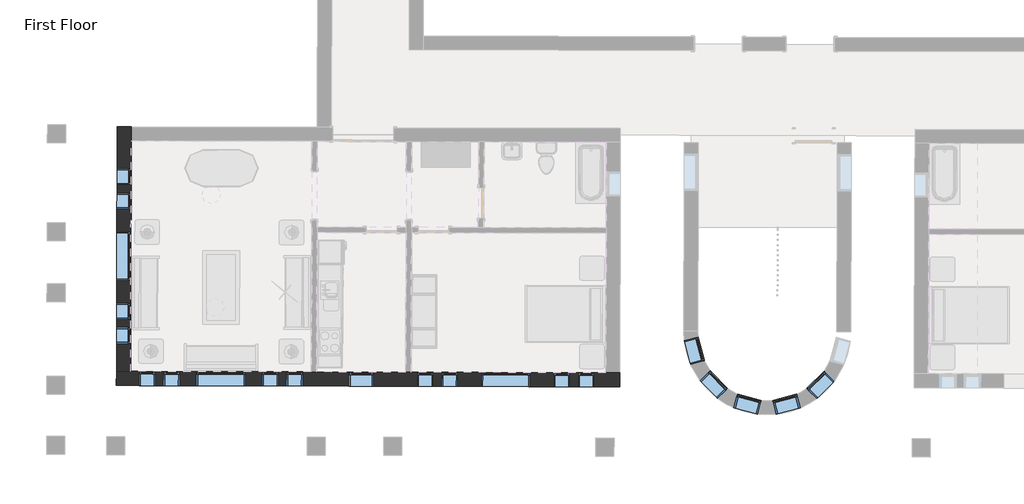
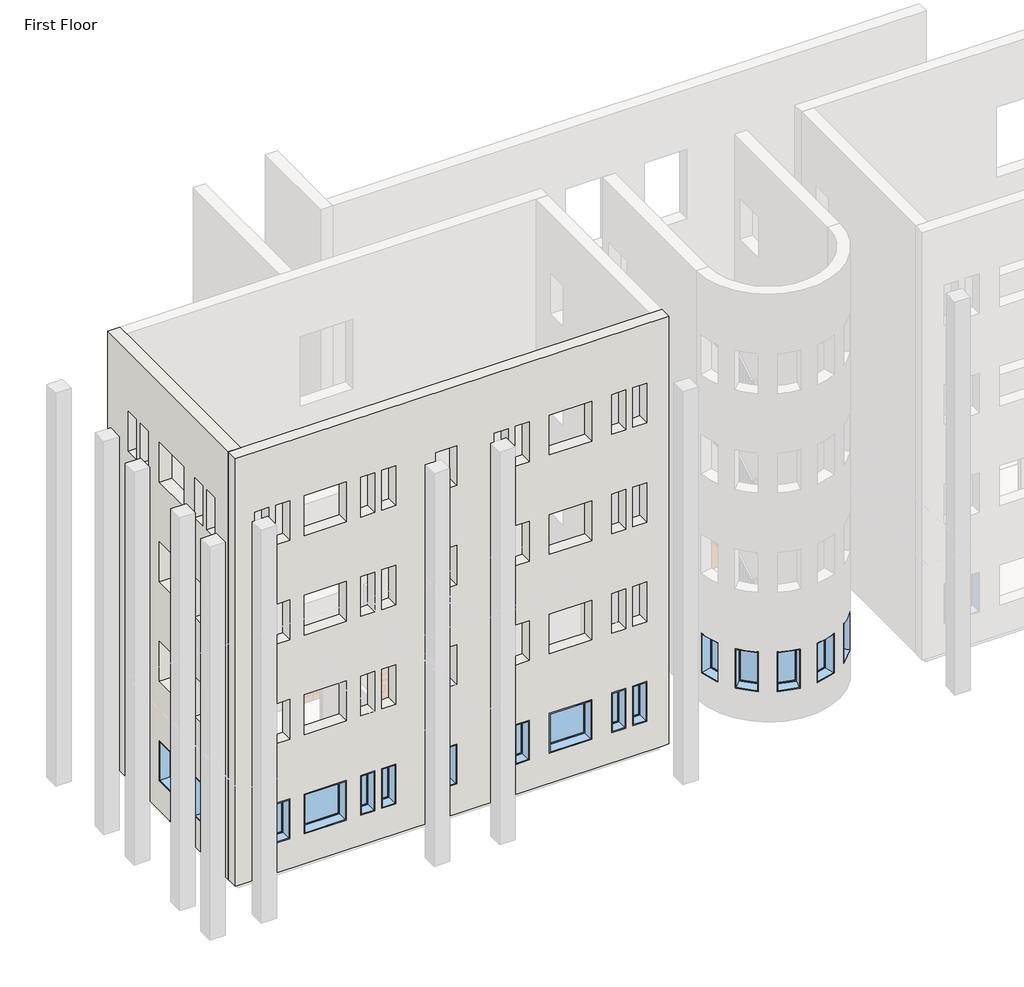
# One storey, part 1 of 22: 21 windows, 2 walls.
"""IFC4 building model written with IfcOpenShell, lengths in millimetres."""

from ifc_helpers import new_model, si_unit, origin, place, context, project, spatial, faceted_brep, transform, mapped, element, save
from components import m_fixed_0406_x_1220mm_57fee329, m_fixed_0406_x_1220mm_85c28f40, m_fixed_0610_x_1220mm_2c28ef1d, m_fixed_0610_x_1220mm_1ea27827, m_fixed_1220_x_1220mm_e08ff7af

model = new_model("IFC4")

# Units and contexts
model_context = context("Model", 3, world=origin())
ifc_project = project(units=[si_unit("LENGTHUNIT", "METRE", prefix="MILLI")], contexts=[model_context])

# Site, building, storey
site = spatial("IfcSite", under=ifc_project)
building = spatial("IfcBuilding", under=site)
storey = spatial("IfcBuildingStorey", under=building, Name="First Floor", Elevation=0.0)

# Walls
placement = place(None, origin())
element("IfcWall", 1, ObjectType="Exterior - Brick on Mtl. Stud", at=placement, inside=storey, context=model_context, shape_type="Brep", body=[
    faceted_brep([(-22692.7768917, -41765.4624379, 0.0), (-22877.7761166, -41764.9268899, 0.0), (-23042.7754252, -41764.4492391, 0.0), (-27891.2551095, -41750.4135399, 0.0), (-28026.7545418, -41750.0212871, 0.0), (-30244.9952471, -41743.5997775, 0.0), (-30380.4946793, -41743.2075247, 0.0), (-34884.7258061, -41730.168379, 0.0), (-35049.7251147, -41729.6907281, 0.0), (-35234.7243395, -41729.1551801, 0.0), (-35234.7243395, -41729.1551801, 13107.0), (-34884.7258061, -41730.168379, 13107.0), (-23042.7754252, -41764.4492391, 13107.0), (-22692.7768917, -41765.4624379, 13107.0), (-29440.8986163, -41745.9275295, 915.0), (-28830.9011723, -41747.6933904, 915.0), (-28830.9011723, -41747.6933904, 2135.0), (-29440.8986163, -41745.9275295, 2135.0), (-26144.7624275, -41755.4694022, 915.0), (-24924.7675394, -41759.001124, 915.0), (-24924.7675394, -41759.001124, 2135.0), (-26144.7624275, -41755.4694022, 2135.0), (-33242.6076867, -41734.922091, 915.0), (-32022.6127987, -41738.4538128, 915.0), (-32022.6127987, -41738.4538128, 2135.0), (-33242.6076867, -41734.922091, 2135.0), (-23730.7725424, -41762.4575796, 915.0), (-23324.7742436, -41763.6328902, 915.0), (-23324.7742436, -41763.6328902, 2135.0), (-23730.7725424, -41762.4575796, 2135.0), (-24340.7699865, -41760.6917187, 915.0), (-23934.7716876, -41761.8670294, 915.0), (-23934.7716876, -41761.8670294, 2135.0), (-24340.7699865, -41760.6917187, 2135.0), (-26728.7599805, -41753.7788075, 915.0), (-26728.7599805, -41753.7788075, 2135.0), (-27134.7582793, -41752.6034968, 2135.0), (-27134.7582793, -41752.6034968, 915.0), (-27338.7574246, -41752.0129466, 915.0), (-27338.7574246, -41752.0129466, 2135.0), (-27744.7557234, -41750.8376359, 2135.0), (-27744.7557234, -41750.8376359, 915.0), (-31607.739537, -41739.6548153, 915.0), (-31201.7412382, -41740.830126, 915.0), (-31201.7412382, -41740.830126, 2135.0), (-31607.739537, -41739.6548153, 2135.0), (-30997.742093, -41741.4206762, 915.0), (-30591.7437942, -41742.5959869, 915.0), (-30591.7437942, -41742.5959869, 2135.0), (-30997.742093, -41741.4206762, 2135.0), (-33657.4809484, -41733.7210885, 915.0), (-33657.4809484, -41733.7210885, 2135.0), (-34063.4792472, -41732.5457778, 2135.0), (-34063.4792472, -41732.5457778, 915.0), (-34267.4783924, -41731.9552276, 915.0), (-34267.4783924, -41731.9552276, 2135.0), (-34673.4766912, -41730.7799169, 2135.0), (-34673.4766912, -41730.7799169, 915.0), (-33657.4809484, -41733.7210885, 10059.0), (-33657.4809484, -41733.7210885, 11279.0), (-34063.4792472, -41732.5457778, 11279.0), (-34063.4792472, -41732.5457778, 10059.0), (-34267.4783924, -41731.9552276, 10059.0), (-34267.4783924, -41731.9552276, 11279.0), (-34673.4766912, -41730.7799169, 11279.0), (-34673.4766912, -41730.7799169, 10059.0), (-31607.739537, -41739.6548153, 10059.0), (-31201.7412382, -41740.830126, 10059.0), (-31201.7412382, -41740.830126, 11279.0), (-31607.739537, -41739.6548153, 11279.0), (-30997.742093, -41741.4206762, 10059.0), (-30591.7437942, -41742.5959869, 10059.0), (-30591.7437942, -41742.5959869, 11279.0), (-30997.742093, -41741.4206762, 11279.0), (-26728.7599805, -41753.7788075, 10059.0), (-26728.7599805, -41753.7788075, 11279.0), (-27134.7582793, -41752.6034968, 11279.0), (-27134.7582793, -41752.6034968, 10059.0), (-27338.7574246, -41752.0129466, 10059.0), (-27338.7574246, -41752.0129466, 11279.0), (-27744.7557234, -41750.8376359, 11279.0), (-27744.7557234, -41750.8376359, 10059.0), (-24340.7699865, -41760.6917187, 10059.0), (-23934.7716876, -41761.8670294, 10059.0), (-23934.7716876, -41761.8670294, 11279.0), (-24340.7699865, -41760.6917187, 11279.0), (-23730.7725424, -41762.4575796, 10059.0), (-23324.7742436, -41763.6328902, 10059.0), (-23324.7742436, -41763.6328902, 11279.0), (-23730.7725424, -41762.4575796, 11279.0), (-33242.6076867, -41734.922091, 10059.0), (-32022.6127987, -41738.4538128, 10059.0), (-32022.6127987, -41738.4538128, 11279.0), (-33242.6076867, -41734.922091, 11279.0), (-26144.7624275, -41755.4694022, 10059.0), (-24924.7675394, -41759.001124, 10059.0), (-24924.7675394, -41759.001124, 11279.0), (-26144.7624275, -41755.4694022, 11279.0), (-29440.8986163, -41745.9275295, 10059.0), (-28830.9011723, -41747.6933904, 10059.0), (-28830.9011723, -41747.6933904, 11279.0), (-29440.8986163, -41745.9275295, 11279.0), (-33657.4809484, -41733.7210885, 3963.0), (-33657.4809484, -41733.7210885, 5183.0), (-34063.4792472, -41732.5457778, 5183.0), (-34063.4792472, -41732.5457778, 3963.0), (-34267.4783924, -41731.9552276, 3963.0), (-34267.4783924, -41731.9552276, 5183.0), (-34673.4766912, -41730.7799169, 5183.0), (-34673.4766912, -41730.7799169, 3963.0), (-31607.739537, -41739.6548153, 3963.0), (-31201.7412382, -41740.830126, 3963.0), (-31201.7412382, -41740.830126, 5183.0), (-31607.739537, -41739.6548153, 5183.0), (-30997.742093, -41741.4206762, 3963.0), (-30591.7437942, -41742.5959869, 3963.0), (-30591.7437942, -41742.5959869, 5183.0), (-30997.742093, -41741.4206762, 5183.0), (-26728.7599805, -41753.7788075, 3963.0), (-26728.7599805, -41753.7788075, 5183.0), (-27134.7582793, -41752.6034968, 5183.0), (-27134.7582793, -41752.6034968, 3963.0), (-27338.7574246, -41752.0129466, 3963.0), (-27338.7574246, -41752.0129466, 5183.0), (-27744.7557234, -41750.8376359, 5183.0), (-27744.7557234, -41750.8376359, 3963.0), (-24340.7699865, -41760.6917187, 3963.0), (-23934.7716876, -41761.8670294, 3963.0), (-23934.7716876, -41761.8670294, 5183.0), (-24340.7699865, -41760.6917187, 5183.0), (-23730.7725424, -41762.4575796, 3963.0), (-23324.7742436, -41763.6328902, 3963.0), (-23324.7742436, -41763.6328902, 5183.0), (-23730.7725424, -41762.4575796, 5183.0), (-33242.6076867, -41734.922091, 3963.0), (-32022.6127987, -41738.4538128, 3963.0), (-32022.6127987, -41738.4538128, 5183.0), (-33242.6076867, -41734.922091, 5183.0), (-26144.7624275, -41755.4694022, 3963.0), (-24924.7675394, -41759.001124, 3963.0), (-24924.7675394, -41759.001124, 5183.0), (-26144.7624275, -41755.4694022, 5183.0), (-29440.8986163, -41745.9275295, 3963.0), (-28830.9011723, -41747.6933904, 3963.0), (-28830.9011723, -41747.6933904, 5183.0), (-29440.8986163, -41745.9275295, 5183.0), (-33657.4809484, -41733.7210885, 7011.0), (-33657.4809484, -41733.7210885, 8231.0), (-34063.4792472, -41732.5457778, 8231.0), (-34063.4792472, -41732.5457778, 7011.0), (-34267.4783924, -41731.9552276, 7011.0), (-34267.4783924, -41731.9552276, 8231.0), (-34673.4766912, -41730.7799169, 8231.0), (-34673.4766912, -41730.7799169, 7011.0), (-31607.739537, -41739.6548153, 7011.0), (-31201.7412382, -41740.830126, 7011.0), (-31201.7412382, -41740.830126, 8231.0), (-31607.739537, -41739.6548153, 8231.0), (-30997.742093, -41741.4206762, 7011.0), (-30591.7437942, -41742.5959869, 7011.0), (-30591.7437942, -41742.5959869, 8231.0), (-30997.742093, -41741.4206762, 8231.0), (-26728.7599805, -41753.7788075, 7011.0), (-26728.7599805, -41753.7788075, 8231.0), (-27134.7582793, -41752.6034968, 8231.0), (-27134.7582793, -41752.6034968, 7011.0), (-27338.7574246, -41752.0129466, 7011.0), (-27338.7574246, -41752.0129466, 8231.0), (-27744.7557234, -41750.8376359, 8231.0), (-27744.7557234, -41750.8376359, 7011.0), (-24340.7699865, -41760.6917187, 7011.0), (-23934.7716876, -41761.8670294, 7011.0), (-23934.7716876, -41761.8670294, 8231.0), (-24340.7699865, -41760.6917187, 8231.0), (-23730.7725424, -41762.4575796, 7011.0), (-23324.7742436, -41763.6328902, 7011.0), (-23324.7742436, -41763.6328902, 8231.0), (-23730.7725424, -41762.4575796, 8231.0), (-33242.6076867, -41734.922091, 7011.0), (-32022.6127987, -41738.4538128, 7011.0), (-32022.6127987, -41738.4538128, 8231.0), (-33242.6076867, -41734.922091, 8231.0), (-26144.7624275, -41755.4694022, 7011.0), (-24924.7675394, -41759.001124, 7011.0), (-24924.7675394, -41759.001124, 8231.0), (-26144.7624275, -41755.4694022, 8231.0), (-29440.8986163, -41745.9275295, 7011.0), (-28830.9011723, -41747.6933904, 7011.0), (-28830.9011723, -41747.6933904, 8231.0), (-29440.8986163, -41745.9275295, 8231.0), (-22693.7900906, -42115.4609714, 0.0), (-22693.7900906, -42115.4609714, 13107.0), (-35235.7375384, -42079.1537136, 13107.0), (-35235.7375384, -42079.1537136, 0.0), (-35050.7383136, -42079.6892616, 0.0), (-22878.7893155, -42114.9254234, 0.0), (-29441.9118152, -42095.9260629, 915.0), (-29441.9118152, -42095.9260629, 2135.0), (-28831.9143712, -42097.6919238, 2135.0), (-28831.9143712, -42097.6919238, 915.0), (-26145.7756264, -42105.4679357, 915.0), (-26145.7756264, -42105.4679357, 2135.0), (-24925.7807383, -42108.9996575, 2135.0), (-24925.7807383, -42108.9996575, 915.0), (-33243.6208856, -42084.9206245, 915.0), (-33243.6208856, -42084.9206245, 2135.0), (-32023.6259975, -42088.4523462, 2135.0), (-32023.6259975, -42088.4523462, 915.0), (-23731.7857413, -42112.456113, 915.0), (-23731.7857413, -42112.456113, 2135.0), (-23325.7874425, -42113.6314237, 2135.0), (-23325.7874425, -42113.6314237, 915.0), (-24341.7831853, -42110.6902521, 915.0), (-24341.7831853, -42110.6902521, 2135.0), (-23935.7848865, -42111.8655628, 2135.0), (-23935.7848865, -42111.8655628, 915.0), (-26729.7731794, -42103.777341, 915.0), (-27135.7714782, -42102.6020303, 915.0), (-27135.7714782, -42102.6020303, 2135.0), (-26729.7731794, -42103.777341, 2135.0), (-27339.7706234, -42102.0114801, 915.0), (-27745.7689222, -42100.8361694, 915.0), (-27745.7689222, -42100.8361694, 2135.0), (-27339.7706234, -42102.0114801, 2135.0), (-31608.7527359, -42089.6533487, 915.0), (-31608.7527359, -42089.6533487, 2135.0), (-31202.7544371, -42090.8286594, 2135.0), (-31202.7544371, -42090.8286594, 915.0), (-30998.7552919, -42091.4192096, 915.0), (-30998.7552919, -42091.4192096, 2135.0), (-30592.756993, -42092.5945203, 2135.0), (-30592.756993, -42092.5945203, 915.0), (-33658.4941472, -42083.7196219, 915.0), (-34064.4924461, -42082.5443112, 915.0), (-34064.4924461, -42082.5443112, 2135.0), (-33658.4941472, -42083.7196219, 2135.0), (-34268.4915913, -42081.953761, 915.0), (-34674.4898901, -42080.7784504, 915.0), (-34674.4898901, -42080.7784504, 2135.0), (-34268.4915913, -42081.953761, 2135.0), (-33658.4941472, -42083.7196219, 10059.0), (-34064.4924461, -42082.5443112, 10059.0), (-34064.4924461, -42082.5443112, 11279.0), (-33658.4941472, -42083.7196219, 11279.0), (-34268.4915913, -42081.953761, 10059.0), (-34674.4898901, -42080.7784504, 10059.0), (-34674.4898901, -42080.7784504, 11279.0), (-34268.4915913, -42081.953761, 11279.0), (-31608.7527359, -42089.6533487, 10059.0), (-31608.7527359, -42089.6533487, 11279.0), (-31202.7544371, -42090.8286594, 11279.0), (-31202.7544371, -42090.8286594, 10059.0), (-30998.7552919, -42091.4192096, 10059.0), (-30998.7552919, -42091.4192096, 11279.0), (-30592.756993, -42092.5945203, 11279.0), (-30592.756993, -42092.5945203, 10059.0), (-26729.7731794, -42103.777341, 10059.0), (-27135.7714782, -42102.6020303, 10059.0), (-27135.7714782, -42102.6020303, 11279.0), (-26729.7731794, -42103.777341, 11279.0), (-27339.7706234, -42102.0114801, 10059.0), (-27745.7689222, -42100.8361694, 10059.0), (-27745.7689222, -42100.8361694, 11279.0), (-27339.7706234, -42102.0114801, 11279.0), (-24341.7831853, -42110.6902521, 10059.0), (-24341.7831853, -42110.6902521, 11279.0), (-23935.7848865, -42111.8655628, 11279.0), (-23935.7848865, -42111.8655628, 10059.0), (-23731.7857413, -42112.456113, 10059.0), (-23731.7857413, -42112.456113, 11279.0), (-23325.7874425, -42113.6314237, 11279.0), (-23325.7874425, -42113.6314237, 10059.0), (-33243.6208856, -42084.9206245, 10059.0), (-33243.6208856, -42084.9206245, 11279.0), (-32023.6259975, -42088.4523462, 11279.0), (-32023.6259975, -42088.4523462, 10059.0), (-26145.7756264, -42105.4679357, 10059.0), (-26145.7756264, -42105.4679357, 11279.0), (-24925.7807383, -42108.9996575, 11279.0), (-24925.7807383, -42108.9996575, 10059.0), (-29441.9118152, -42095.9260629, 10059.0), (-29441.9118152, -42095.9260629, 11279.0), (-28831.9143712, -42097.6919238, 11279.0), (-28831.9143712, -42097.6919238, 10059.0), (-33658.4941472, -42083.7196219, 3963.0), (-34064.4924461, -42082.5443112, 3963.0), (-34064.4924461, -42082.5443112, 5183.0), (-33658.4941472, -42083.7196219, 5183.0), (-34268.4915913, -42081.953761, 3963.0), (-34674.4898901, -42080.7784504, 3963.0), (-34674.4898901, -42080.7784504, 5183.0), (-34268.4915913, -42081.953761, 5183.0), (-31608.7527359, -42089.6533487, 3963.0), (-31608.7527359, -42089.6533487, 5183.0), (-31202.7544371, -42090.8286594, 5183.0), (-31202.7544371, -42090.8286594, 3963.0), (-30998.7552919, -42091.4192096, 3963.0), (-30998.7552919, -42091.4192096, 5183.0), (-30592.756993, -42092.5945203, 5183.0), (-30592.756993, -42092.5945203, 3963.0), (-26729.7731794, -42103.777341, 3963.0), (-27135.7714782, -42102.6020303, 3963.0), (-27135.7714782, -42102.6020303, 5183.0), (-26729.7731794, -42103.777341, 5183.0), (-27339.7706234, -42102.0114801, 3963.0), (-27745.7689222, -42100.8361694, 3963.0), (-27745.7689222, -42100.8361694, 5183.0), (-27339.7706234, -42102.0114801, 5183.0), (-24341.7831853, -42110.6902521, 3963.0), (-24341.7831853, -42110.6902521, 5183.0), (-23935.7848865, -42111.8655628, 5183.0), (-23935.7848865, -42111.8655628, 3963.0), (-23731.7857413, -42112.456113, 3963.0), (-23731.7857413, -42112.456113, 5183.0), (-23325.7874425, -42113.6314237, 5183.0), (-23325.7874425, -42113.6314237, 3963.0), (-33243.6208856, -42084.9206245, 3963.0), (-33243.6208856, -42084.9206245, 5183.0), (-32023.6259975, -42088.4523462, 5183.0), (-32023.6259975, -42088.4523462, 3963.0), (-26145.7756264, -42105.4679357, 3963.0), (-26145.7756264, -42105.4679357, 5183.0), (-24925.7807383, -42108.9996575, 5183.0), (-24925.7807383, -42108.9996575, 3963.0), (-29441.9118152, -42095.9260629, 3963.0), (-29441.9118152, -42095.9260629, 5183.0), (-28831.9143712, -42097.6919238, 5183.0), (-28831.9143712, -42097.6919238, 3963.0), (-33658.4941472, -42083.7196219, 7011.0), (-34064.4924461, -42082.5443112, 7011.0), (-34064.4924461, -42082.5443112, 8231.0), (-33658.4941472, -42083.7196219, 8231.0), (-34268.4915913, -42081.953761, 7011.0), (-34674.4898901, -42080.7784504, 7011.0), (-34674.4898901, -42080.7784504, 8231.0), (-34268.4915913, -42081.953761, 8231.0), (-31608.7527359, -42089.6533487, 7011.0), (-31608.7527359, -42089.6533487, 8231.0), (-31202.7544371, -42090.8286594, 8231.0), (-31202.7544371, -42090.8286594, 7011.0), (-30998.7552919, -42091.4192096, 7011.0), (-30998.7552919, -42091.4192096, 8231.0), (-30592.756993, -42092.5945203, 8231.0), (-30592.756993, -42092.5945203, 7011.0), (-26729.7731794, -42103.777341, 7011.0), (-27135.7714782, -42102.6020303, 7011.0), (-27135.7714782, -42102.6020303, 8231.0), (-26729.7731794, -42103.777341, 8231.0), (-27339.7706234, -42102.0114801, 7011.0), (-27745.7689222, -42100.8361694, 7011.0), (-27745.7689222, -42100.8361694, 8231.0), (-27339.7706234, -42102.0114801, 8231.0), (-24341.7831853, -42110.6902521, 7011.0), (-24341.7831853, -42110.6902521, 8231.0), (-23935.7848865, -42111.8655628, 8231.0), (-23935.7848865, -42111.8655628, 7011.0), (-23731.7857413, -42112.456113, 7011.0), (-23731.7857413, -42112.456113, 8231.0), (-23325.7874425, -42113.6314237, 8231.0), (-23325.7874425, -42113.6314237, 7011.0), (-33243.6208856, -42084.9206245, 7011.0), (-33243.6208856, -42084.9206245, 8231.0), (-32023.6259975, -42088.4523462, 8231.0), (-32023.6259975, -42088.4523462, 7011.0), (-26145.7756264, -42105.4679357, 7011.0), (-26145.7756264, -42105.4679357, 8231.0), (-24925.7807383, -42108.9996575, 8231.0), (-24925.7807383, -42108.9996575, 7011.0), (-29441.9118152, -42095.9260629, 7011.0), (-29441.9118152, -42095.9260629, 8231.0), (-28831.9143712, -42097.6919238, 8231.0), (-28831.9143712, -42097.6919238, 7011.0), (-35235.2019904, -41894.1544888, 0.0), (-22693.2545426, -41930.4617466, 0.0), (-22878.2537675, -41929.9261986, 0.0), (-35050.2027656, -41894.6900367, 0.0)], [[[0, 1, 2, 3, 4, 5, 6, 7, 8, 9, 10, 11, 12, 13], [14, 15, 16, 17], [18, 19, 20, 21], [22, 23, 24, 25], [26, 27, 28, 29], [30, 31, 32, 33], [34, 35, 36, 37], [38, 39, 40, 41], [42, 43, 44, 45], [46, 47, 48, 49], [50, 51, 52, 53], [54, 55, 56, 57], [58, 59, 60, 61], [62, 63, 64, 65], [66, 67, 68, 69], [70, 71, 72, 73], [74, 75, 76, 77], [78, 79, 80, 81], [82, 83, 84, 85], [86, 87, 88, 89], [90, 91, 92, 93], [94, 95, 96, 97], [98, 99, 100, 101], [102, 103, 104, 105], [106, 107, 108, 109], [110, 111, 112, 113], [114, 115, 116, 117], [118, 119, 120, 121], [122, 123, 124, 125], [126, 127, 128, 129], [130, 131, 132, 133], [134, 135, 136, 137], [138, 139, 140, 141], [142, 143, 144, 145], [146, 147, 148, 149], [150, 151, 152, 153], [154, 155, 156, 157], [158, 159, 160, 161], [162, 163, 164, 165], [166, 167, 168, 169], [170, 171, 172, 173], [174, 175, 176, 177], [178, 179, 180, 181], [182, 183, 184, 185], [186, 187, 188, 189]], [[190, 191, 192, 193, 194, 195], [196, 197, 198, 199], [200, 201, 202, 203], [204, 205, 206, 207], [208, 209, 210, 211], [212, 213, 214, 215], [216, 217, 218, 219], [220, 221, 222, 223], [224, 225, 226, 227], [228, 229, 230, 231], [232, 233, 234, 235], [236, 237, 238, 239], [240, 241, 242, 243], [244, 245, 246, 247], [248, 249, 250, 251], [252, 253, 254, 255], [256, 257, 258, 259], [260, 261, 262, 263], [264, 265, 266, 267], [268, 269, 270, 271], [272, 273, 274, 275], [276, 277, 278, 279], [280, 281, 282, 283], [284, 285, 286, 287], [288, 289, 290, 291], [292, 293, 294, 295], [296, 297, 298, 299], [300, 301, 302, 303], [304, 305, 306, 307], [308, 309, 310, 311], [312, 313, 314, 315], [316, 317, 318, 319], [320, 321, 322, 323], [324, 325, 326, 327], [328, 329, 330, 331], [332, 333, 334, 335], [336, 337, 338, 339], [340, 341, 342, 343], [344, 345, 346, 347], [348, 349, 350, 351], [352, 353, 354, 355], [356, 357, 358, 359], [360, 361, 362, 363], [364, 365, 366, 367], [368, 369, 370, 371]], [[13, 12, 11, 10, 192, 191]], [[10, 9, 372, 193, 192]], [[0, 13, 191, 190, 373]], [[197, 196, 14, 17]], [[198, 197, 17, 16]], [[199, 198, 16, 15]], [[196, 199, 15, 14]], [[201, 200, 18, 21]], [[202, 201, 21, 20]], [[203, 202, 20, 19]], [[200, 203, 19, 18]], [[205, 204, 22, 25]], [[206, 205, 25, 24]], [[207, 206, 24, 23]], [[204, 207, 23, 22]], [[209, 208, 26, 29]], [[210, 209, 29, 28]], [[211, 210, 28, 27]], [[208, 211, 27, 26]], [[213, 212, 30, 33]], [[214, 213, 33, 32]], [[215, 214, 32, 31]], [[212, 215, 31, 30]], [[35, 34, 216, 219]], [[36, 35, 219, 218]], [[37, 36, 218, 217]], [[34, 37, 217, 216]], [[39, 38, 220, 223]], [[40, 39, 223, 222]], [[41, 40, 222, 221]], [[38, 41, 221, 220]], [[225, 224, 42, 45]], [[226, 225, 45, 44]], [[227, 226, 44, 43]], [[224, 227, 43, 42]], [[229, 228, 46, 49]], [[230, 229, 49, 48]], [[231, 230, 48, 47]], [[228, 231, 47, 46]], [[51, 50, 232, 235]], [[52, 51, 235, 234]], [[53, 52, 234, 233]], [[50, 53, 233, 232]], [[55, 54, 236, 239]], [[56, 55, 239, 238]], [[57, 56, 238, 237]], [[54, 57, 237, 236]], [[1, 0, 373, 374]], [[373, 190, 195, 374]], [[9, 8, 375, 372]], [[195, 194, 375, 374]], [[194, 193, 372, 375]], [[8, 7, 6, 5, 4, 3, 2, 1, 374, 375]], [[59, 58, 240, 243]], [[60, 59, 243, 242]], [[61, 60, 242, 241]], [[58, 61, 241, 240]], [[63, 62, 244, 247]], [[64, 63, 247, 246]], [[65, 64, 246, 245]], [[62, 65, 245, 244]], [[249, 248, 66, 69]], [[250, 249, 69, 68]], [[251, 250, 68, 67]], [[248, 251, 67, 66]], [[253, 252, 70, 73]], [[254, 253, 73, 72]], [[255, 254, 72, 71]], [[252, 255, 71, 70]], [[75, 74, 256, 259]], [[76, 75, 259, 258]], [[77, 76, 258, 257]], [[74, 77, 257, 256]], [[79, 78, 260, 263]], [[80, 79, 263, 262]], [[81, 80, 262, 261]], [[78, 81, 261, 260]], [[265, 264, 82, 85]], [[266, 265, 85, 84]], [[267, 266, 84, 83]], [[264, 267, 83, 82]], [[269, 268, 86, 89]], [[270, 269, 89, 88]], [[271, 270, 88, 87]], [[268, 271, 87, 86]], [[273, 272, 90, 93]], [[274, 273, 93, 92]], [[275, 274, 92, 91]], [[272, 275, 91, 90]], [[277, 276, 94, 97]], [[278, 277, 97, 96]], [[279, 278, 96, 95]], [[276, 279, 95, 94]], [[281, 280, 98, 101]], [[282, 281, 101, 100]], [[283, 282, 100, 99]], [[280, 283, 99, 98]], [[103, 102, 284, 287]], [[104, 103, 287, 286]], [[105, 104, 286, 285]], [[102, 105, 285, 284]], [[107, 106, 288, 291]], [[108, 107, 291, 290]], [[109, 108, 290, 289]], [[106, 109, 289, 288]], [[293, 292, 110, 113]], [[294, 293, 113, 112]], [[295, 294, 112, 111]], [[292, 295, 111, 110]], [[297, 296, 114, 117]], [[298, 297, 117, 116]], [[299, 298, 116, 115]], [[296, 299, 115, 114]], [[119, 118, 300, 303]], [[120, 119, 303, 302]], [[121, 120, 302, 301]], [[118, 121, 301, 300]], [[123, 122, 304, 307]], [[124, 123, 307, 306]], [[125, 124, 306, 305]], [[122, 125, 305, 304]], [[309, 308, 126, 129]], [[310, 309, 129, 128]], [[311, 310, 128, 127]], [[308, 311, 127, 126]], [[313, 312, 130, 133]], [[314, 313, 133, 132]], [[315, 314, 132, 131]], [[312, 315, 131, 130]], [[317, 316, 134, 137]], [[318, 317, 137, 136]], [[319, 318, 136, 135]], [[316, 319, 135, 134]], [[321, 320, 138, 141]], [[322, 321, 141, 140]], [[323, 322, 140, 139]], [[320, 323, 139, 138]], [[325, 324, 142, 145]], [[326, 325, 145, 144]], [[327, 326, 144, 143]], [[324, 327, 143, 142]], [[147, 146, 328, 331]], [[148, 147, 331, 330]], [[149, 148, 330, 329]], [[146, 149, 329, 328]], [[151, 150, 332, 335]], [[152, 151, 335, 334]], [[153, 152, 334, 333]], [[150, 153, 333, 332]], [[337, 336, 154, 157]], [[338, 337, 157, 156]], [[339, 338, 156, 155]], [[336, 339, 155, 154]], [[341, 340, 158, 161]], [[342, 341, 161, 160]], [[343, 342, 160, 159]], [[340, 343, 159, 158]], [[163, 162, 344, 347]], [[164, 163, 347, 346]], [[165, 164, 346, 345]], [[162, 165, 345, 344]], [[167, 166, 348, 351]], [[168, 167, 351, 350]], [[169, 168, 350, 349]], [[166, 169, 349, 348]], [[353, 352, 170, 173]], [[354, 353, 173, 172]], [[355, 354, 172, 171]], [[352, 355, 171, 170]], [[357, 356, 174, 177]], [[358, 357, 177, 176]], [[359, 358, 176, 175]], [[356, 359, 175, 174]], [[361, 360, 178, 181]], [[362, 361, 181, 180]], [[363, 362, 180, 179]], [[360, 363, 179, 178]], [[365, 364, 182, 185]], [[366, 365, 185, 184]], [[367, 366, 184, 183]], [[364, 367, 183, 182]], [[369, 368, 186, 189]], [[370, 369, 189, 188]], [[371, 370, 188, 187]], [[368, 371, 187, 186]]]),
])
element("IfcWall", 2, ObjectType="Exterior - Brick on Mtl. Stud", at=placement, inside=storey, context=model_context, shape_type="Brep", body=[
    faceted_brep([(-34884.7258061, -41730.168379, 0.0), (-34868.0919755, -35984.1924553, 0.0), (-34867.6143246, -35819.1931467, 0.0), (-34867.0787766, -35634.1939218, 0.0), (-34867.0787766, -35634.1939218, 13107.0), (-34868.0919755, -35984.1924553, 13107.0), (-34884.7258061, -41730.168379, 13107.0), (-34874.6430299, -38247.1829731, 915.0), (-34878.1747517, -39467.1778612, 915.0), (-34878.1747517, -39467.1778612, 2135.0), (-34874.6430299, -38247.1829731, 2135.0), (-34879.7900801, -40025.1755231, 915.0), (-34880.9653908, -40431.1738219, 915.0), (-34880.9653908, -40431.1738219, 2135.0), (-34879.7900801, -40025.1755231, 2135.0), (-34881.555941, -40635.1729672, 915.0), (-34882.7312517, -41041.171266, 915.0), (-34882.7312517, -41041.171266, 2135.0), (-34881.555941, -40635.1729672, 2135.0), (-34873.0277014, -37689.1853112, 915.0), (-34873.0277014, -37689.1853112, 2135.0), (-34871.8523907, -37283.1870124, 2135.0), (-34871.8523907, -37283.1870124, 915.0), (-34871.2618405, -37079.1878671, 915.0), (-34871.2618405, -37079.1878671, 2135.0), (-34870.0865298, -36673.1895683, 2135.0), (-34870.0865298, -36673.1895683, 915.0), (-34873.0277014, -37689.1853112, 10059.0), (-34873.0277014, -37689.1853112, 11279.0), (-34871.8523907, -37283.1870124, 11279.0), (-34871.8523907, -37283.1870124, 10059.0), (-34871.2618405, -37079.1878671, 10059.0), (-34871.2618405, -37079.1878671, 11279.0), (-34870.0865298, -36673.1895683, 11279.0), (-34870.0865298, -36673.1895683, 10059.0), (-34879.7900801, -40025.1755231, 10059.0), (-34880.9653908, -40431.1738219, 10059.0), (-34880.9653908, -40431.1738219, 11279.0), (-34879.7900801, -40025.1755231, 11279.0), (-34881.555941, -40635.1729672, 10059.0), (-34882.7312517, -41041.171266, 10059.0), (-34882.7312517, -41041.171266, 11279.0), (-34881.555941, -40635.1729672, 11279.0), (-34874.6430299, -38247.1829731, 10059.0), (-34878.1747517, -39467.1778612, 10059.0), (-34878.1747517, -39467.1778612, 11279.0), (-34874.6430299, -38247.1829731, 11279.0), (-34873.0277014, -37689.1853112, 3963.0), (-34873.0277014, -37689.1853112, 5183.0), (-34871.8523907, -37283.1870124, 5183.0), (-34871.8523907, -37283.1870124, 3963.0), (-34871.2618405, -37079.1878671, 3963.0), (-34871.2618405, -37079.1878671, 5183.0), (-34870.0865298, -36673.1895683, 5183.0), (-34870.0865298, -36673.1895683, 3963.0), (-34879.7900801, -40025.1755231, 3963.0), (-34880.9653908, -40431.1738219, 3963.0), (-34880.9653908, -40431.1738219, 5183.0), (-34879.7900801, -40025.1755231, 5183.0), (-34881.555941, -40635.1729672, 3963.0), (-34882.7312517, -41041.171266, 3963.0), (-34882.7312517, -41041.171266, 5183.0), (-34881.555941, -40635.1729672, 5183.0), (-34874.6430299, -38247.1829731, 3963.0), (-34878.1747517, -39467.1778612, 3963.0), (-34878.1747517, -39467.1778612, 5183.0), (-34874.6430299, -38247.1829731, 5183.0), (-34873.0277014, -37689.1853112, 7011.0), (-34873.0277014, -37689.1853112, 8231.0), (-34871.8523907, -37283.1870124, 8231.0), (-34871.8523907, -37283.1870124, 7011.0), (-34871.2618405, -37079.1878671, 7011.0), (-34871.2618405, -37079.1878671, 8231.0), (-34870.0865298, -36673.1895683, 8231.0), (-34870.0865298, -36673.1895683, 7011.0), (-34879.7900801, -40025.1755231, 7011.0), (-34880.9653908, -40431.1738219, 7011.0), (-34880.9653908, -40431.1738219, 8231.0), (-34879.7900801, -40025.1755231, 8231.0), (-34881.555941, -40635.1729672, 7011.0), (-34882.7312517, -41041.171266, 7011.0), (-34882.7312517, -41041.171266, 8231.0), (-34881.555941, -40635.1729672, 8231.0), (-34874.6430299, -38247.1829731, 7011.0), (-34878.1747517, -39467.1778612, 7011.0), (-34878.1747517, -39467.1778612, 8231.0), (-34874.6430299, -38247.1829731, 8231.0), (-35234.7243395, -41729.1551801, 0.0), (-35234.7243395, -41729.1551801, 13107.0), (-35217.0773101, -35633.180723, 13107.0), (-35217.0773101, -35633.180723, 0.0), (-35217.612858, -35818.1799478, 0.0), (-35224.6415634, -38246.1697742, 915.0), (-35224.6415634, -38246.1697742, 2135.0), (-35228.1732851, -39466.1646623, 2135.0), (-35228.1732851, -39466.1646623, 915.0), (-35229.7886136, -40024.1623242, 915.0), (-35229.7886136, -40024.1623242, 2135.0), (-35230.9639243, -40430.1606231, 2135.0), (-35230.9639243, -40430.1606231, 915.0), (-35231.5544745, -40634.1597683, 915.0), (-35231.5544745, -40634.1597683, 2135.0), (-35232.7297852, -41040.1580671, 2135.0), (-35232.7297852, -41040.1580671, 915.0), (-35223.0262349, -37688.1721123, 915.0), (-35221.8509242, -37282.1738135, 915.0), (-35221.8509242, -37282.1738135, 2135.0), (-35223.0262349, -37688.1721123, 2135.0), (-35221.260374, -37078.1746683, 915.0), (-35220.0850633, -36672.1763695, 915.0), (-35220.0850633, -36672.1763695, 2135.0), (-35221.260374, -37078.1746683, 2135.0), (-35223.0262349, -37688.1721123, 10059.0), (-35221.8509242, -37282.1738135, 10059.0), (-35221.8509242, -37282.1738135, 11279.0), (-35223.0262349, -37688.1721123, 11279.0), (-35221.260374, -37078.1746683, 10059.0), (-35220.0850633, -36672.1763695, 10059.0), (-35220.0850633, -36672.1763695, 11279.0), (-35221.260374, -37078.1746683, 11279.0), (-35229.7886136, -40024.1623242, 10059.0), (-35229.7886136, -40024.1623242, 11279.0), (-35230.9639243, -40430.1606231, 11279.0), (-35230.9639243, -40430.1606231, 10059.0), (-35231.5544745, -40634.1597683, 10059.0), (-35231.5544745, -40634.1597683, 11279.0), (-35232.7297852, -41040.1580671, 11279.0), (-35232.7297852, -41040.1580671, 10059.0), (-35224.6415634, -38246.1697742, 10059.0), (-35224.6415634, -38246.1697742, 11279.0), (-35228.1732851, -39466.1646623, 11279.0), (-35228.1732851, -39466.1646623, 10059.0), (-35223.0262349, -37688.1721123, 3963.0), (-35221.8509242, -37282.1738135, 3963.0), (-35221.8509242, -37282.1738135, 5183.0), (-35223.0262349, -37688.1721123, 5183.0), (-35221.260374, -37078.1746683, 3963.0), (-35220.0850633, -36672.1763695, 3963.0), (-35220.0850633, -36672.1763695, 5183.0), (-35221.260374, -37078.1746683, 5183.0), (-35229.7886136, -40024.1623242, 3963.0), (-35229.7886136, -40024.1623242, 5183.0), (-35230.9639243, -40430.1606231, 5183.0), (-35230.9639243, -40430.1606231, 3963.0), (-35231.5544745, -40634.1597683, 3963.0), (-35231.5544745, -40634.1597683, 5183.0), (-35232.7297852, -41040.1580671, 5183.0), (-35232.7297852, -41040.1580671, 3963.0), (-35224.6415634, -38246.1697742, 3963.0), (-35224.6415634, -38246.1697742, 5183.0), (-35228.1732851, -39466.1646623, 5183.0), (-35228.1732851, -39466.1646623, 3963.0), (-35223.0262349, -37688.1721123, 7011.0), (-35221.8509242, -37282.1738135, 7011.0), (-35221.8509242, -37282.1738135, 8231.0), (-35223.0262349, -37688.1721123, 8231.0), (-35221.260374, -37078.1746683, 7011.0), (-35220.0850633, -36672.1763695, 7011.0), (-35220.0850633, -36672.1763695, 8231.0), (-35221.260374, -37078.1746683, 8231.0), (-35229.7886136, -40024.1623242, 7011.0), (-35229.7886136, -40024.1623242, 8231.0), (-35230.9639243, -40430.1606231, 8231.0), (-35230.9639243, -40430.1606231, 7011.0), (-35231.5544745, -40634.1597683, 7011.0), (-35231.5544745, -40634.1597683, 8231.0), (-35232.7297852, -41040.1580671, 8231.0), (-35232.7297852, -41040.1580671, 7011.0), (-35224.6415634, -38246.1697742, 7011.0), (-35224.6415634, -38246.1697742, 8231.0), (-35228.1732851, -39466.1646623, 8231.0), (-35228.1732851, -39466.1646623, 7011.0), (-35049.7251147, -41729.6907281, 0.0), (-35032.0780852, -35633.7162709, 0.0), (-35032.6136332, -35818.7154958, 0.0)], [[[0, 1, 2, 3, 4, 5, 6], [7, 8, 9, 10], [11, 12, 13, 14], [15, 16, 17, 18], [19, 20, 21, 22], [23, 24, 25, 26], [27, 28, 29, 30], [31, 32, 33, 34], [35, 36, 37, 38], [39, 40, 41, 42], [43, 44, 45, 46], [47, 48, 49, 50], [51, 52, 53, 54], [55, 56, 57, 58], [59, 60, 61, 62], [63, 64, 65, 66], [67, 68, 69, 70], [71, 72, 73, 74], [75, 76, 77, 78], [79, 80, 81, 82], [83, 84, 85, 86]], [[87, 88, 89, 90, 91], [92, 93, 94, 95], [96, 97, 98, 99], [100, 101, 102, 103], [104, 105, 106, 107], [108, 109, 110, 111], [112, 113, 114, 115], [116, 117, 118, 119], [120, 121, 122, 123], [124, 125, 126, 127], [128, 129, 130, 131], [132, 133, 134, 135], [136, 137, 138, 139], [140, 141, 142, 143], [144, 145, 146, 147], [148, 149, 150, 151], [152, 153, 154, 155], [156, 157, 158, 159], [160, 161, 162, 163], [164, 165, 166, 167], [168, 169, 170, 171]], [[6, 5, 4, 89, 88]], [[0, 6, 88, 87, 172]], [[4, 3, 173, 90, 89]], [[93, 92, 7, 10]], [[94, 93, 10, 9]], [[95, 94, 9, 8]], [[92, 95, 8, 7]], [[97, 96, 11, 14]], [[98, 97, 14, 13]], [[99, 98, 13, 12]], [[96, 99, 12, 11]], [[101, 100, 15, 18]], [[102, 101, 18, 17]], [[103, 102, 17, 16]], [[100, 103, 16, 15]], [[20, 19, 104, 107]], [[21, 20, 107, 106]], [[22, 21, 106, 105]], [[19, 22, 105, 104]], [[24, 23, 108, 111]], [[25, 24, 111, 110]], [[26, 25, 110, 109]], [[23, 26, 109, 108]], [[172, 87, 91, 174]], [[3, 2, 174, 173]], [[174, 91, 90, 173]], [[2, 1, 0, 172, 174]], [[28, 27, 112, 115]], [[29, 28, 115, 114]], [[30, 29, 114, 113]], [[27, 30, 113, 112]], [[32, 31, 116, 119]], [[33, 32, 119, 118]], [[34, 33, 118, 117]], [[31, 34, 117, 116]], [[121, 120, 35, 38]], [[122, 121, 38, 37]], [[123, 122, 37, 36]], [[120, 123, 36, 35]], [[125, 124, 39, 42]], [[126, 125, 42, 41]], [[127, 126, 41, 40]], [[124, 127, 40, 39]], [[129, 128, 43, 46]], [[130, 129, 46, 45]], [[131, 130, 45, 44]], [[128, 131, 44, 43]], [[48, 47, 132, 135]], [[49, 48, 135, 134]], [[50, 49, 134, 133]], [[47, 50, 133, 132]], [[52, 51, 136, 139]], [[53, 52, 139, 138]], [[54, 53, 138, 137]], [[51, 54, 137, 136]], [[141, 140, 55, 58]], [[142, 141, 58, 57]], [[143, 142, 57, 56]], [[140, 143, 56, 55]], [[145, 144, 59, 62]], [[146, 145, 62, 61]], [[147, 146, 61, 60]], [[144, 147, 60, 59]], [[149, 148, 63, 66]], [[150, 149, 66, 65]], [[151, 150, 65, 64]], [[148, 151, 64, 63]], [[68, 67, 152, 155]], [[69, 68, 155, 154]], [[70, 69, 154, 153]], [[67, 70, 153, 152]], [[72, 71, 156, 159]], [[73, 72, 159, 158]], [[74, 73, 158, 157]], [[71, 74, 157, 156]], [[161, 160, 75, 78]], [[162, 161, 78, 77]], [[163, 162, 77, 76]], [[160, 163, 76, 75]], [[165, 164, 79, 82]], [[166, 165, 82, 81]], [[167, 166, 81, 80]], [[164, 167, 80, 79]], [[169, 168, 83, 86]], [[170, 169, 86, 85]], [[171, 170, 85, 84]], [[168, 171, 84, 83]]]),
])

# Windows
m_fixed_0406_x_1220mm_shape = m_fixed_0406_x_1220mm_57fee329(model_context)
element("IfcWindow", 3, ObjectType="M_Fixed : 0406 x 1220mm", at=placement, inside=storey, context=model_context, shape_type="MappedRepresentation", body=[
    mapped(m_fixed_0406_x_1220mm_shape, transform((-23528.3176256, -41951.0444472, 0.0), x_axis=(0.9999958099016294, -0.0028948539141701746, 0.0), y_axis=(0.0028948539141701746, 0.9999958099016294, 0.0), z_axis=(0.0, 0.0, 1.0))),
])
element("IfcWindow", 4, ObjectType="M_Fixed : 0406 x 1220mm", at=placement, inside=storey, context=model_context, shape_type="MappedRepresentation", body=[
    mapped(m_fixed_0406_x_1220mm_shape, transform((-24138.3150696, -41949.2785863, 0.0), x_axis=(0.9999958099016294, -0.0028948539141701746, 0.0), y_axis=(0.0028948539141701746, 0.9999958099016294, 0.0), z_axis=(0.0, 0.0, 1.0))),
])
element("IfcWindow", 5, ObjectType="M_Fixed : 0406 x 1220mm", at=placement, inside=storey, context=model_context, shape_type="MappedRepresentation", body=[
    mapped(m_fixed_0406_x_1220mm_shape, transform((-30795.2871761, -41930.0075438, 0.0), x_axis=(0.9999958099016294, -0.0028948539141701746, 0.0), y_axis=(0.0028948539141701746, 0.9999958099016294, 0.0), z_axis=(0.0, 0.0, 1.0))),
])
element("IfcWindow", 6, ObjectType="M_Fixed : 0406 x 1220mm", at=placement, inside=storey, context=model_context, shape_type="MappedRepresentation", body=[
    mapped(m_fixed_0406_x_1220mm_shape, transform((-31405.2846201, -41928.2416829, 0.0), x_axis=(0.9999958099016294, -0.0028948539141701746, 0.0), y_axis=(0.0028948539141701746, 0.9999958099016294, 0.0), z_axis=(0.0, 0.0, 1.0))),
])
element("IfcWindow", 7, ObjectType="M_Fixed : 0406 x 1220mm", at=placement, inside=storey, context=model_context, shape_type="MappedRepresentation", body=[
    mapped(m_fixed_0406_x_1220mm_shape, transform((-35070.1428086, -40837.627884, 0.0), x_axis=(-0.002894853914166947, -0.9999958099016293, 0.0), y_axis=(0.9999958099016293, -0.002894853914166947, 0.0), z_axis=(0.0, 0.0, 1.0))),
])
element("IfcWindow", 8, ObjectType="M_Fixed : 0406 x 1220mm", at=placement, inside=storey, context=model_context, shape_type="MappedRepresentation", body=[
    mapped(m_fixed_0406_x_1220mm_shape, transform((-35068.3769478, -40227.63044, 0.0), x_axis=(-0.002894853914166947, -0.9999958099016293, 0.0), y_axis=(0.9999958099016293, -0.002894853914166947, 0.0), z_axis=(0.0, 0.0, 1.0))),
])
m_fixed_0406_x_1220mm_2_shape = m_fixed_0406_x_1220mm_85c28f40(model_context)
element("IfcWindow", 9, ObjectType="M_Fixed : 0406 x 1220mm", at=placement, inside=storey, context=model_context, shape_type="MappedRepresentation", body=[
    mapped(m_fixed_0406_x_1220mm_2_shape, transform((-27542.3008065, -41939.4245036, 0.0), x_axis=(-0.9999958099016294, 0.0028948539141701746, 0.0), y_axis=(-0.0028948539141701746, -0.9999958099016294, 0.0), z_axis=(0.0, 0.0, 1.0))),
])
element("IfcWindow", 10, ObjectType="M_Fixed : 0406 x 1220mm", at=placement, inside=storey, context=model_context, shape_type="MappedRepresentation", body=[
    mapped(m_fixed_0406_x_1220mm_2_shape, transform((-26932.3033625, -41941.1903644, 0.0), x_axis=(-0.9999958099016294, 0.0028948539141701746, 0.0), y_axis=(-0.0028948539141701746, -0.9999958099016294, 0.0), z_axis=(0.0, 0.0, 1.0))),
])
element("IfcWindow", 11, ObjectType="M_Fixed : 0406 x 1220mm", at=placement, inside=storey, context=model_context, shape_type="MappedRepresentation", body=[
    mapped(m_fixed_0406_x_1220mm_2_shape, transform((-34471.0217744, -41919.3667845, 0.0), x_axis=(-0.9999958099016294, 0.0028948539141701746, 0.0), y_axis=(-0.0028948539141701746, -0.9999958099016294, 0.0), z_axis=(0.0, 0.0, 1.0))),
])
element("IfcWindow", 12, ObjectType="M_Fixed : 0406 x 1220mm", at=placement, inside=storey, context=model_context, shape_type="MappedRepresentation", body=[
    mapped(m_fixed_0406_x_1220mm_2_shape, transform((-33861.0243303, -41921.1326454, 0.0), x_axis=(-0.9999958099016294, 0.0028948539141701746, 0.0), y_axis=(-0.0028948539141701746, -0.9999958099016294, 0.0), z_axis=(0.0, 0.0, 1.0))),
])
element("IfcWindow", 13, ObjectType="M_Fixed : 0406 x 1220mm", at=placement, inside=storey, context=model_context, shape_type="MappedRepresentation", body=[
    mapped(m_fixed_0406_x_1220mm_2_shape, transform((-35058.6733974, -36875.6444852, 0.0), x_axis=(0.002894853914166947, 0.9999958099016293, 0.0), y_axis=(-0.9999958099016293, 0.002894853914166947, 0.0), z_axis=(0.0, 0.0, 1.0))),
])
element("IfcWindow", 14, ObjectType="M_Fixed : 0406 x 1220mm", at=placement, inside=storey, context=model_context, shape_type="MappedRepresentation", body=[
    mapped(m_fixed_0406_x_1220mm_2_shape, transform((-35060.4392583, -37485.6419292, 0.0), x_axis=(0.002894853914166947, 0.9999958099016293, 0.0), y_axis=(-0.9999958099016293, 0.002894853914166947, 0.0), z_axis=(0.0, 0.0, 1.0))),
])
m_fixed_0610_x_1220mm_shape = m_fixed_0610_x_1220mm_2c28ef1d(model_context)
element("IfcWindow", 15, ObjectType="M_Fixed : 0610 x 1220mm", at=placement, inside=storey, context=model_context, shape_type="MappedRepresentation", body=[
    mapped(m_fixed_0610_x_1220mm_shape, transform((-18533.9080335, -42559.9760987, 0.0), x_axis=(0.96667102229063, 0.2560217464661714, 0.0), y_axis=(-0.2560217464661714, 0.96667102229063, 0.0), z_axis=(0.0, 0.0, 1.0))),
])
element("IfcWindow", 16, ObjectType="M_Fixed : 0610 x 1220mm", at=placement, inside=storey, context=model_context, shape_type="MappedRepresentation", body=[
    mapped(m_fixed_0610_x_1220mm_shape, transform((-17684.8266921, -42073.0305917, 0.0), x_axis=(0.709150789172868, 0.7050568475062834, 0.0), y_axis=(-0.7050568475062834, 0.709150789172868, 0.0), z_axis=(0.0, 0.0, 1.0))),
])
element("IfcWindow", 17, ObjectType="M_Fixed : 0610 x 1220mm", at=placement, inside=storey, context=model_context, shape_type="MappedRepresentation", body=[
    mapped(m_fixed_0610_x_1220mm_shape, transform((-29136.4441269, -41934.8096722, 0.0), x_axis=(0.9999958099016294, -0.0028948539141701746, 0.0), y_axis=(0.0028948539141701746, 0.9999958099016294, 0.0), z_axis=(0.0, 0.0, 1.0))),
])
m_fixed_0610_x_1220mm_2_shape = m_fixed_0610_x_1220mm_1ea27827(model_context)
element("IfcWindow", 18, ObjectType="M_Fixed : 0610 x 1220mm", at=placement, inside=storey, context=model_context, shape_type="MappedRepresentation", body=[
    mapped(m_fixed_0610_x_1220mm_2_shape, transform((-20845.9001557, -41216.208008, 0.0), x_axis=(-0.25602174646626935, 0.9666710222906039, 0.0), y_axis=(-0.9666710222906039, -0.25602174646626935, 0.0), z_axis=(0.0, 0.0, 1.0))),
])
element("IfcWindow", 19, ObjectType="M_Fixed : 0610 x 1220mm", at=placement, inside=storey, context=model_context, shape_type="MappedRepresentation", body=[
    mapped(m_fixed_0610_x_1220mm_2_shape, transform((-19512.7067986, -42557.1426074, 0.0), x_axis=(-0.9651725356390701, 0.2616141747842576, 0.0), y_axis=(-0.2616141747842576, -0.9651725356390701, 0.0), z_axis=(0.0, 0.0, 1.0))),
])
element("IfcWindow", 20, ObjectType="M_Fixed : 0610 x 1220mm", at=placement, inside=storey, context=model_context, shape_type="MappedRepresentation", body=[
    mapped(m_fixed_0610_x_1220mm_2_shape, transform((-20358.9546487, -42065.2893494, 0.0), x_axis=(-0.7050568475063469, 0.7091507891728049, 0.0), y_axis=(-0.7091507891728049, -0.7050568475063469, 0.0), z_axis=(0.0, 0.0, 1.0))),
])
m_fixed_1220_x_1220mm_shape = m_fixed_1220_x_1220mm_e08ff7af(model_context)
element("IfcWindow", 21, ObjectType="M_Fixed : 1220 x 1220mm", at=placement, inside=storey, context=model_context, shape_type="MappedRepresentation", body=[
    mapped(m_fixed_1220_x_1220mm_shape, transform((-25535.309216, -41945.2344754, 0.0), x_axis=(0.9999958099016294, -0.0028948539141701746, 0.0), y_axis=(0.0028948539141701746, 0.9999958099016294, 0.0), z_axis=(0.0, 0.0, 1.0))),
])
element("IfcWindow", 22, ObjectType="M_Fixed : 1220 x 1220mm", at=placement, inside=storey, context=model_context, shape_type="MappedRepresentation", body=[
    mapped(m_fixed_1220_x_1220mm_shape, transform((-32633.1544752, -41924.6871641, 0.0), x_axis=(0.9999958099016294, -0.0028948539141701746, 0.0), y_axis=(0.0028948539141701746, 0.9999958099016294, 0.0), z_axis=(0.0, 0.0, 1.0))),
])
element("IfcWindow", 23, ObjectType="M_Fixed : 1220 x 1220mm", at=placement, inside=storey, context=model_context, shape_type="MappedRepresentation", body=[
    mapped(m_fixed_1220_x_1220mm_shape, transform((-35064.408103, -38856.6361846, 0.0), x_axis=(-0.002894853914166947, -0.9999958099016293, 0.0), y_axis=(0.9999958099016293, -0.002894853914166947, 0.0), z_axis=(0.0, 0.0, 1.0))),
])

save(model, "model.ifc")
